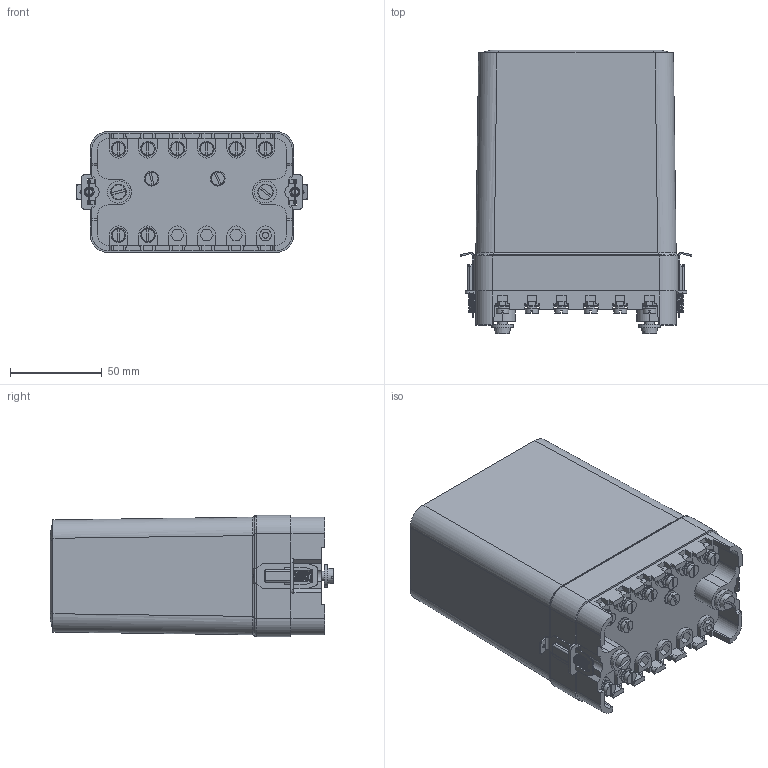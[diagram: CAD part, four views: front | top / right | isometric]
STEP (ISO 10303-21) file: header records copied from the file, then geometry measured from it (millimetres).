
FILE_DESCRIPTION(('STEP AP203'), '1');
FILE_NAME('ÐÑÂ-01-5 çàäíåå ïðèñîåäèíåíèå âèíòîì', '', ('UNSPECIFIED'), ('UNSPECIFIED'), 'ASCON STEP Converter 1.3', 'ASCON Math Kernel', '');
FILE_SCHEMA(('CONFIG_CONTROL_DESIGN'));
Length unit declared in the file: millimetre
Bounding box: 126.2 x 154.3 x 66 mm (x, y, z)
Volume: 162845.3 mm3; surface area: 127819.3 mm2
Topology: 3 solids, 3 shells, 1231 faces, 3334 edges, 2169 vertices
Faces by surface type: plane 892, cylinder 269, bspline 38, cone 24, torus 6, sphere 2
Full cylindrical faces by diameter (mm): 2 x2, 3.242 x10, 3.5 x2, 4 x19, 4.2 x2, 4.5 x10, 5 x2, 5.5 x14, 7 x10, 8 x10, 9.5 x2, 12 x2
Entity records: 61393 total; most frequent: CARTESIAN_POINT 20805, ORIENTED_EDGE 6410, DIRECTION 6062, EDGE_CURVE 3205, LINE 2408, VECTOR 2408, VERTEX_POINT 2167, AXIS2_PLACEMENT_3D 1827
